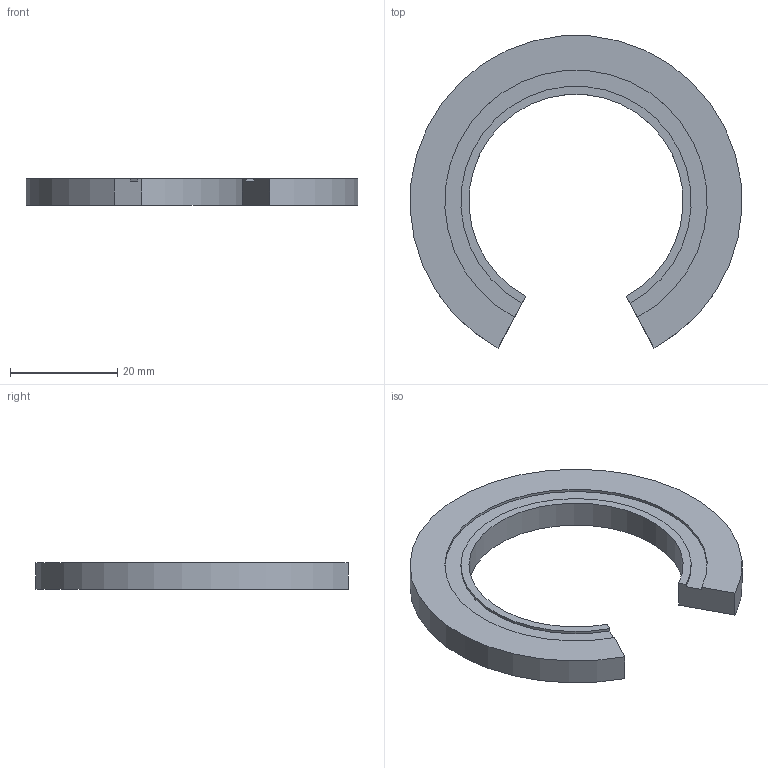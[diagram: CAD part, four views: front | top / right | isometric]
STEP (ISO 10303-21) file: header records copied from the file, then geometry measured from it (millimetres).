
FILE_DESCRIPTION(/* description */ (''),/* implementation_level */ '2;1');
FILE_NAME(/* name */ 'W:\WEBOVKY\Knecht\VD-OP\VD40-OP\VD40-OP.stp',/* time_stamp */ '2021-03-08T12:32:56+01:00',/* author */ ('mkorenek'),/* organization */ (''),/* preprocessor_version */ 'ST-DEVELOPER v18.1',/* originating_system */ 'Autodesk Inventor 2021',/* authorisation */ '');
FILE_SCHEMA (('AUTOMOTIVE_DESIGN { 1 0 10303 214 3 1 1 }'));
Length unit declared in the file: millimetre
Products named in the file (2): VD40-OP; VD16
Assembly tree (1 placements, depth 2):
  VD40-OP
    VD16
Bounding box: 61.91 x 58.26 x 5 mm (x, y, z)
Volume: 7258.3 mm3; surface area: 4558.6 mm2
Topology: 1 solids, 1 shells, 10 faces, 24 edges, 16 vertices
Faces by surface type: plane 6, cylinder 4
Entity records: 363 total; most frequent: DIRECTION 58, CARTESIAN_POINT 53, ORIENTED_EDGE 48, EDGE_CURVE 24, AXIS2_PLACEMENT_3D 21, LINE 16, VECTOR 16, VERTEX_POINT 16
